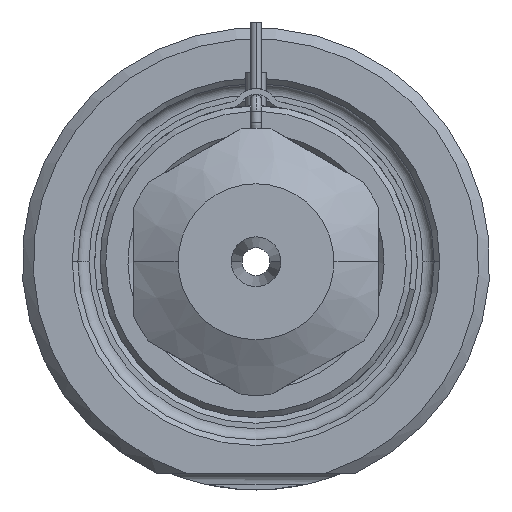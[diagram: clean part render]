
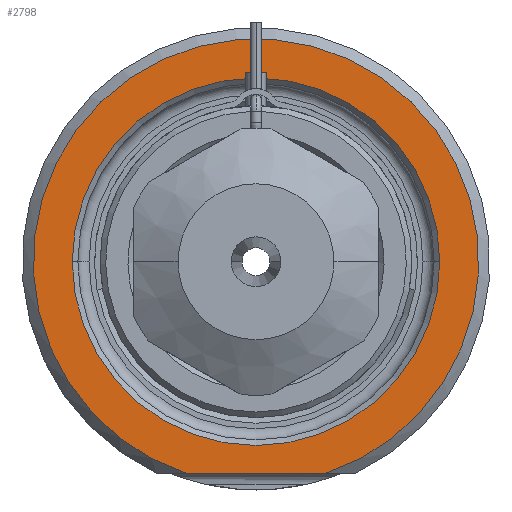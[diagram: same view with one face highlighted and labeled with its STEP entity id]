
A CAD part, front view. The second image highlights one B-rep face of the part: STEP entity #2798.
In plain terms, the highlighted planar face has unit normal (0, -1, 0).
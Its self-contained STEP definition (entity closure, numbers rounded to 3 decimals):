
#1=DIRECTION('',(1.,0.,0.));
#2=VECTOR('',#1,12.49);
#3=CARTESIAN_POINT('',(-6.245,0.,-19.));
#4=LINE('',#3,#2);
#5=CARTESIAN_POINT('',(0.,0.,0.));
#6=DIRECTION('',(0.,1.,0.));
#7=DIRECTION('',(-1.,0.,0.));
#8=AXIS2_PLACEMENT_3D('',#5,#6,#7);
#10=CARTESIAN_POINT('',(0.,0.,0.));
#11=DIRECTION('',(0.,1.,0.));
#12=DIRECTION('',(1.,0.,0.));
#13=AXIS2_PLACEMENT_3D('',#10,#11,#12);
#119=CARTESIAN_POINT('',(0.,0.,0.));
#120=DIRECTION('',(0.,-1.,0.));
#121=DIRECTION('',(0.312,0.,-0.95));
#122=AXIS2_PLACEMENT_3D('',#119,#120,#121);
#2341=CARTESIAN_POINT('',(-16.5,0.,0.));
#2342=CARTESIAN_POINT('',(16.5,0.,0.));
#2343=VERTEX_POINT('',#2341);
#2344=VERTEX_POINT('',#2342);
#2381=CARTESIAN_POINT('',(-6.245,0.,-19.));
#2382=CARTESIAN_POINT('',(6.245,0.,-19.));
#2383=VERTEX_POINT('',#2381);
#2384=VERTEX_POINT('',#2382);
#2781=CARTESIAN_POINT('',(0.,0.,0.));
#2782=DIRECTION('',(0.,-1.,0.));
#2783=DIRECTION('',(1.,0.,0.));
#2784=AXIS2_PLACEMENT_3D('',#2781,#2782,#2783);
#2785=PLANE('',#2784);
#2787=ORIENTED_EDGE('',*,*,#2786,.F.);
#2789=ORIENTED_EDGE('',*,*,#2788,.F.);
#2790=EDGE_LOOP('',(#2787,#2789));
#2791=FACE_OUTER_BOUND('',#2790,.F.);
#2793=ORIENTED_EDGE('',*,*,#2792,.F.);
#2795=ORIENTED_EDGE('',*,*,#2794,.F.);
#2796=EDGE_LOOP('',(#2793,#2795));
#2797=FACE_BOUND('',#2796,.F.);
#2798=ADVANCED_FACE('',(#2791,#2797),#2785,.T.);
#9=CIRCLE('',#8,16.5);
#14=CIRCLE('',#13,16.5);
#123=CIRCLE('',#122,20.);
#2786=EDGE_CURVE('',#2383,#2384,#4,.T.);
#2788=EDGE_CURVE('',#2384,#2383,#123,.T.);
#2792=EDGE_CURVE('',#2343,#2344,#9,.T.);
#2794=EDGE_CURVE('',#2344,#2343,#14,.T.);
